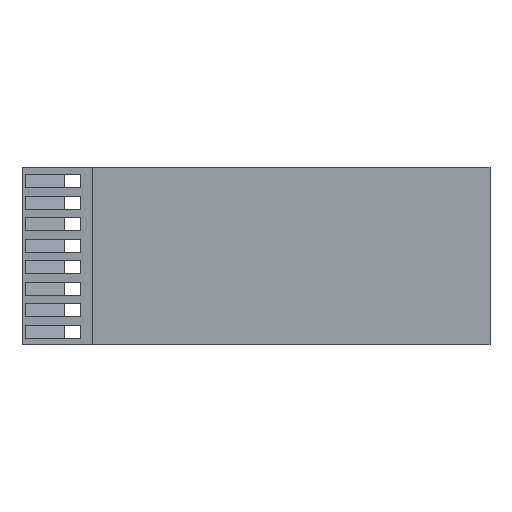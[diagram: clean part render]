
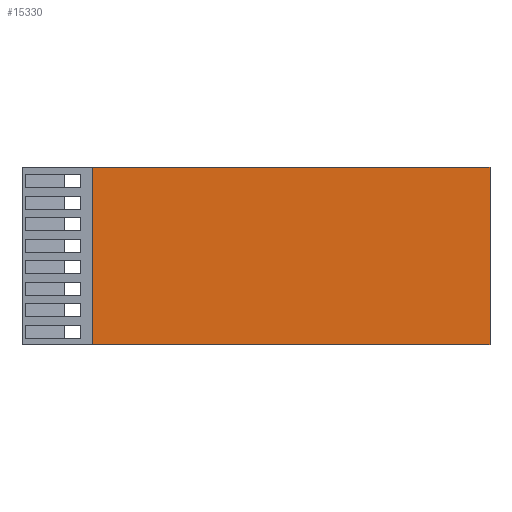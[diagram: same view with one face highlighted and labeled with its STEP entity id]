
A CAD part, left-side view. The second image highlights one B-rep face of the part: STEP entity #15330.
In plain terms, the highlighted planar face has unit normal (-1, 0, 0).
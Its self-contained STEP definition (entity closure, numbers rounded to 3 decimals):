
#2919=DIRECTION('',(0.,1.,0.));
#2920=VECTOR('',#2919,102.);
#2921=CARTESIAN_POINT('',(-35.25,-120.,22.75));
#2922=LINE('',#2921,#2920);
#3314=DIRECTION('',(0.,0.,1.));
#3315=VECTOR('',#3314,45.5);
#3316=CARTESIAN_POINT('',(-35.25,-120.,-22.75));
#3317=LINE('',#3316,#3315);
#3318=DIRECTION('',(0.,1.,0.));
#3319=VECTOR('',#3318,102.);
#3320=CARTESIAN_POINT('',(-35.25,-120.,-22.75));
#3321=LINE('',#3320,#3319);
#3322=DIRECTION('',(0.,0.,1.));
#3323=VECTOR('',#3322,45.5);
#3324=CARTESIAN_POINT('',(-35.25,-18.,-22.75));
#3325=LINE('',#3324,#3323);
#10947=CARTESIAN_POINT('',(-35.25,-18.,-22.75));
#10948=VERTEX_POINT('',#10947);
#10949=CARTESIAN_POINT('',(-35.25,-120.,-22.75));
#10950=VERTEX_POINT('',#10949);
#12280=CARTESIAN_POINT('',(-35.25,-18.,22.75));
#12281=VERTEX_POINT('',#12280);
#12282=CARTESIAN_POINT('',(-35.25,-120.,22.75));
#12283=VERTEX_POINT('',#12282);
#15318=CARTESIAN_POINT('',(-35.25,-18.,22.75));
#15319=DIRECTION('',(1.,0.,0.));
#15320=DIRECTION('',(0.,1.,0.));
#15321=AXIS2_PLACEMENT_3D('',#15318,#15319,#15320);
#15322=PLANE('',#15321);
#15323=ORIENTED_EDGE('',*,*,#14684,.T.);
#15325=ORIENTED_EDGE('',*,*,#15324,.T.);
#15326=ORIENTED_EDGE('',*,*,#14957,.F.);
#15327=ORIENTED_EDGE('',*,*,#15311,.F.);
#15328=EDGE_LOOP('',(#15323,#15325,#15326,#15327));
#15329=FACE_OUTER_BOUND('',#15328,.F.);
#15330=ADVANCED_FACE('',(#15329),#15322,.F.);
#14684=EDGE_CURVE('',#10950,#10948,#3321,.T.);
#14957=EDGE_CURVE('',#12283,#12281,#2922,.T.);
#15311=EDGE_CURVE('',#10950,#12283,#3317,.T.);
#15324=EDGE_CURVE('',#10948,#12281,#3325,.T.);
